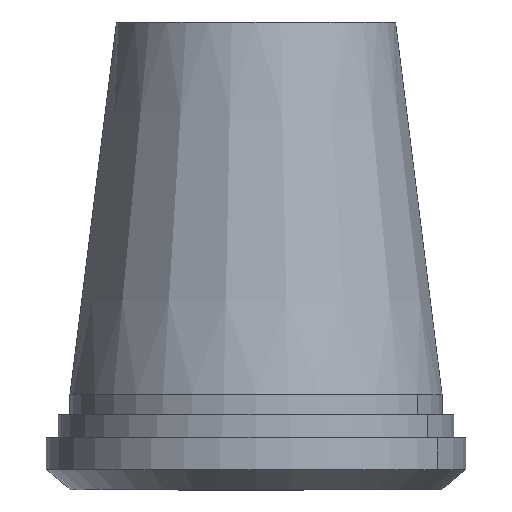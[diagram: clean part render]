
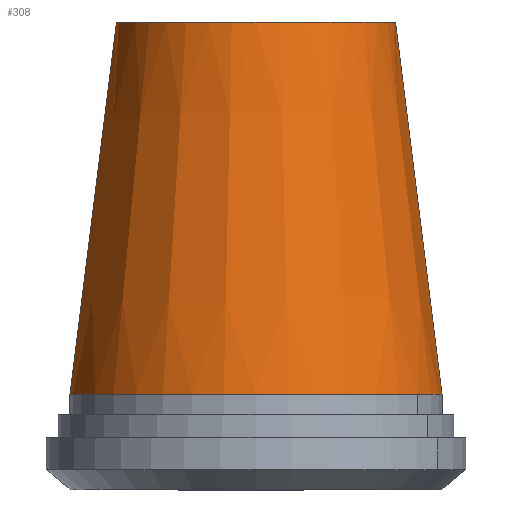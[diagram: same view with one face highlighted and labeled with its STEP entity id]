
A CAD part, front view. The second image highlights one B-rep face of the part: STEP entity #308.
In plain terms, the highlighted conical face has half-angle 7.125 degrees and reference radius 50.8 mm.
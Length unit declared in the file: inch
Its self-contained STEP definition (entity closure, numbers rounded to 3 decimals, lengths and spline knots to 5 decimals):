
#3 = LINE ( 'NONE', #475, #234 ) ;
#45 = CONICAL_SURFACE ( 'NONE', #64, 2., 0.124 ) ;
#48 = CARTESIAN_POINT ( 'NONE',  ( -2., 0., -4. ) ) ;
#64 = AXIS2_PLACEMENT_3D ( 'NONE', #582, #601, #240 ) ;
#104 = AXIS2_PLACEMENT_3D ( 'NONE', #722, #244, #389 ) ;
#107 = LINE ( 'NONE', #48, #116 ) ;
#116 = VECTOR ( 'NONE', #642, 39.37008 ) ;
#151 = ORIENTED_EDGE ( 'NONE', *, *, #279, .F. ) ;
#154 = CARTESIAN_POINT ( 'NONE',  ( -2., 0., -4. ) ) ;
#165 = EDGE_CURVE ( 'NONE', #688, #623, #3, .T. ) ;
#184 = DIRECTION ( 'NONE',  ( 1., 0., 0. ) ) ;
#191 = AXIS2_PLACEMENT_3D ( 'NONE', #852, #785, #184 ) ;
#202 = VERTEX_POINT ( 'NONE', #154 ) ;
#234 = VECTOR ( 'NONE', #271, 39.37008 ) ;
#240 = DIRECTION ( 'NONE',  ( -1., 0., 0. ) ) ;
#244 = DIRECTION ( 'NONE',  ( 0., 0., 1. ) ) ;
#271 = DIRECTION ( 'NONE',  ( 0.124, 0., -0.992 ) ) ;
#279 = EDGE_CURVE ( 'NONE', #760, #688, #483, .T. ) ;
#288 = ORIENTED_EDGE ( 'NONE', *, *, #348, .T. ) ;
#308 = ADVANCED_FACE ( 'NONE', ( #383 ), #45, .T. ) ;
#348 = EDGE_CURVE ( 'NONE', #760, #202, #107, .T. ) ;
#383 = FACE_OUTER_BOUND ( 'NONE', #527, .T. ) ;
#389 = DIRECTION ( 'NONE',  ( 1., 0., 0. ) ) ;
#401 = CARTESIAN_POINT ( 'NONE',  ( 1.5, 0., 0. ) ) ;
#408 = EDGE_CURVE ( 'NONE', #202, #623, #568, .T. ) ;
#475 = CARTESIAN_POINT ( 'NONE',  ( 2., 0., -4. ) ) ;
#483 = CIRCLE ( 'NONE', #104, 1.5 ) ;
#527 = EDGE_LOOP ( 'NONE', ( #695, #151, #288, #723 ) ) ;
#568 = CIRCLE ( 'NONE', #191, 2. ) ;
#582 = CARTESIAN_POINT ( 'NONE',  ( 0., 0., -4. ) ) ;
#601 = DIRECTION ( 'NONE',  ( 0., 0., -1. ) ) ;
#605 = CARTESIAN_POINT ( 'NONE',  ( 2., 0., -4. ) ) ;
#623 = VERTEX_POINT ( 'NONE', #605 ) ;
#642 = DIRECTION ( 'NONE',  ( -0.124, 0., -0.992 ) ) ;
#688 = VERTEX_POINT ( 'NONE', #401 ) ;
#695 = ORIENTED_EDGE ( 'NONE', *, *, #165, .F. ) ;
#722 = CARTESIAN_POINT ( 'NONE',  ( 0., 0., 0. ) ) ;
#723 = ORIENTED_EDGE ( 'NONE', *, *, #408, .T. ) ;
#760 = VERTEX_POINT ( 'NONE', #810 ) ;
#785 = DIRECTION ( 'NONE',  ( 0., 0., 1. ) ) ;
#810 = CARTESIAN_POINT ( 'NONE',  ( -1.5, 0., 0. ) ) ;
#852 = CARTESIAN_POINT ( 'NONE',  ( 0., 0., -4. ) ) ;
